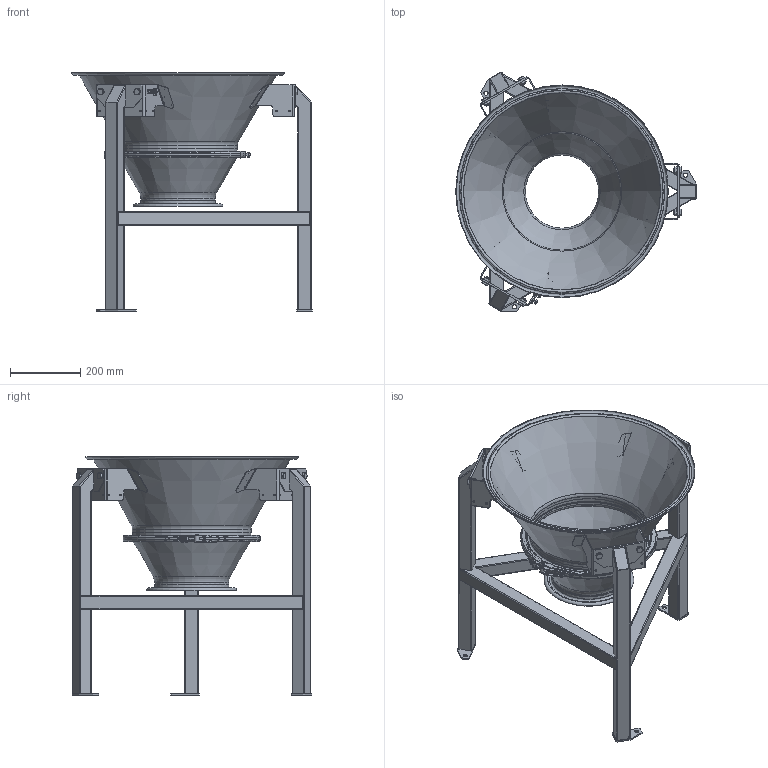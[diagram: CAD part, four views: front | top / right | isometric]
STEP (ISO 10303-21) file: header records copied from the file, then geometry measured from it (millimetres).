
FILE_DESCRIPTION( ( 'Unknown' ), '1' );
FILE_NAME( 'C:/Users/granar/Desktop/SE-0404894.stp', 'Unknown', ( 'Unknown' ), ( 'Unknown' ), 'PSStep 14.0', 'Unknown', ' ' );
FILE_SCHEMA( ( 'AUTOMOTIVE_DESIGN { 1 0 10303 214 1 1 1 1 }' ) );
Length unit declared in the file: millimetre
Products named in the file (2): 0106180
Bounding box: 684.55 x 682.27 x 679.14 mm (x, y, z)
Volume: 3097497 mm3; surface area: 2571123 mm2
Topology: 2 solids, 15 shells, 1107 faces, 2896 edges, 1867 vertices
Faces by surface type: plane 518, cylinder 387, torus 70, cone 70, bspline 62
Full cylindrical faces by diameter (mm): 2.5 x2, 3 x1, 4 x2, 4.917 x23, 5.5 x2, 5.68 x2, 5.7 x2, 6 x8, 6.7 x2, 6.8 x2, 7.5 x2, 7.6 x2, 10 x12, 11.5 x6, 12 x3, 12.5 x12, 12.7 x6, 16.8 x6, 208.3 x1, 210.8 x1, 334.5 x1, 337 x1, 337.5 x1
Entity records: 44983 total; most frequent: CARTESIAN_POINT 10188, ORIENTED_EDGE 5240, DIRECTION 5196, EDGE_CURVE 2620, AXIS2_PLACEMENT_3D 1939, VERTEX_POINT 1792, EDGE_LOOP 1480, LINE 1318
